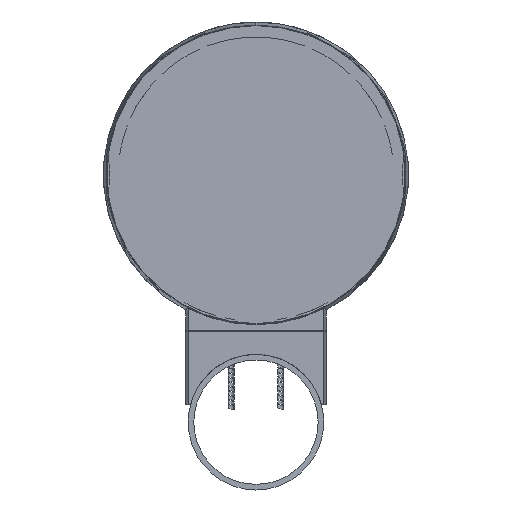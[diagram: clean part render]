
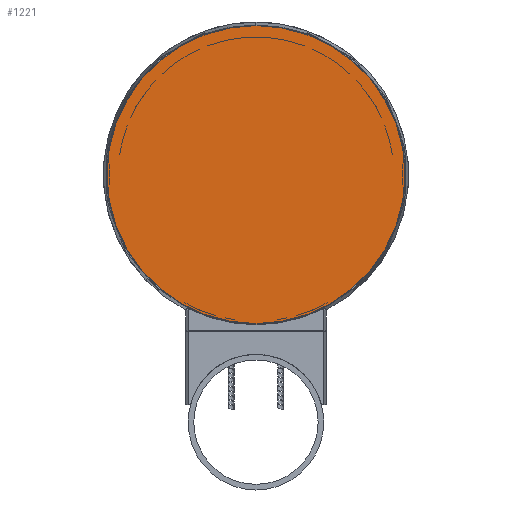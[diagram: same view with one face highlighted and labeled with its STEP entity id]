
A CAD part, front view. The second image highlights one B-rep face of the part: STEP entity #1221.
In plain terms, the highlighted planar face has unit normal (0, -1, 0).
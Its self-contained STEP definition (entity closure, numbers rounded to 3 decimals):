
#1=CARTESIAN_POINT('',(0.,0.,0.));
#2=DIRECTION('',(0.,1.,0.));
#3=DIRECTION('',(0.,0.,1.));
#4=AXIS2_PLACEMENT_3D('',#1,#2,#3);
#6=CARTESIAN_POINT('',(0.,0.,0.));
#7=DIRECTION('',(0.,1.,0.));
#8=DIRECTION('',(0.,0.,-1.));
#9=AXIS2_PLACEMENT_3D('',#6,#7,#8);
#1091=CARTESIAN_POINT('',(0.,0.,-65.903));
#1092=CARTESIAN_POINT('',(0.,0.,65.903));
#1093=VERTEX_POINT('',#1091);
#1094=VERTEX_POINT('',#1092);
#1210=CARTESIAN_POINT('',(0.,0.,0.));
#1211=DIRECTION('',(0.,1.,0.));
#1212=DIRECTION('',(0.,0.,-1.));
#1213=AXIS2_PLACEMENT_3D('',#1210,#1211,#1212);
#1214=PLANE('',#1213);
#1216=ORIENTED_EDGE('',*,*,#1215,.T.);
#1218=ORIENTED_EDGE('',*,*,#1217,.T.);
#1219=EDGE_LOOP('',(#1216,#1218));
#1220=FACE_OUTER_BOUND('',#1219,.F.);
#1221=ADVANCED_FACE('',(#1220),#1214,.F.);
#5=CIRCLE('',#4,65.903);
#10=CIRCLE('',#9,65.903);
#1215=EDGE_CURVE('',#1094,#1093,#5,.T.);
#1217=EDGE_CURVE('',#1093,#1094,#10,.T.);
